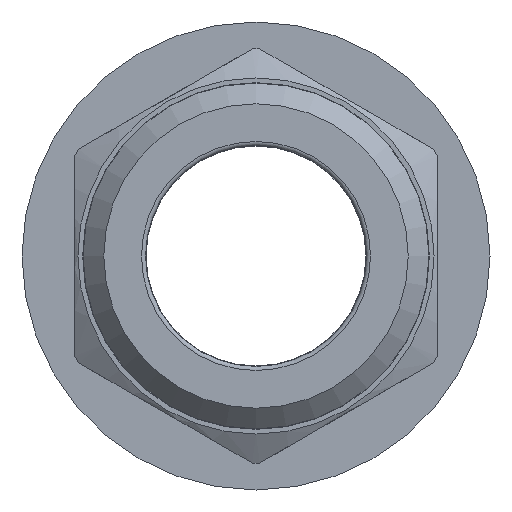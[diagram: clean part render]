
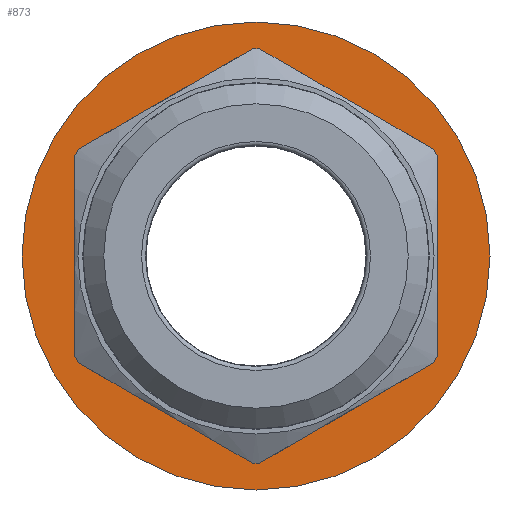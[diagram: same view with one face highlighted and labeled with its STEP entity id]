
A CAD part, front view. The second image highlights one B-rep face of the part: STEP entity #873.
In plain terms, the highlighted planar face has unit normal (0, -1, 0).
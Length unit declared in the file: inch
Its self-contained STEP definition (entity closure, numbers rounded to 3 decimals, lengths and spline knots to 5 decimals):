
#50=FACE_BOUND('',#173,.T.);
#63=PLANE('',#990);
#117=FACE_OUTER_BOUND('',#172,.T.);
#172=EDGE_LOOP('',(#691,#692));
#173=EDGE_LOOP('',(#693,#694));
#317=CIRCLE('',#991,0.565);
#318=CIRCLE('',#992,0.565);
#319=CIRCLE('',#993,0.3575);
#320=CIRCLE('',#994,0.3575);
#400=VERTEX_POINT('',#1490);
#401=VERTEX_POINT('',#1491);
#402=VERTEX_POINT('',#1494);
#403=VERTEX_POINT('',#1495);
#508=EDGE_CURVE('',#400,#401,#317,.T.);
#509=EDGE_CURVE('',#401,#400,#318,.T.);
#510=EDGE_CURVE('',#402,#403,#319,.T.);
#511=EDGE_CURVE('',#403,#402,#320,.T.);
#691=ORIENTED_EDGE('',*,*,#508,.T.);
#692=ORIENTED_EDGE('',*,*,#509,.T.);
#693=ORIENTED_EDGE('',*,*,#510,.F.);
#694=ORIENTED_EDGE('',*,*,#511,.F.);
#873=ADVANCED_FACE('',(#117,#50),#63,.T.);
#990=AXIS2_PLACEMENT_3D('',#1489,#1203,#1204);
#991=AXIS2_PLACEMENT_3D('',#1492,#1205,#1206);
#992=AXIS2_PLACEMENT_3D('',#1493,#1207,#1208);
#993=AXIS2_PLACEMENT_3D('',#1496,#1209,#1210);
#994=AXIS2_PLACEMENT_3D('',#1497,#1211,#1212);
#1203=DIRECTION('center_axis',(0.,-1.,0.));
#1204=DIRECTION('ref_axis',(0.,0.,-1.));
#1205=DIRECTION('center_axis',(0.,-1.,0.));
#1206=DIRECTION('ref_axis',(1.,0.,0.));
#1207=DIRECTION('center_axis',(0.,-1.,0.));
#1208=DIRECTION('ref_axis',(1.,0.,0.));
#1209=DIRECTION('center_axis',(0.,-1.,0.));
#1210=DIRECTION('ref_axis',(1.,0.,0.));
#1211=DIRECTION('center_axis',(0.,-1.,0.));
#1212=DIRECTION('ref_axis',(1.,0.,0.));
#1489=CARTESIAN_POINT('Origin',(0.,0.,-0.3575));
#1490=CARTESIAN_POINT('',(0.,0.,-0.565));
#1491=CARTESIAN_POINT('',(0.,0.,0.565));
#1492=CARTESIAN_POINT('Origin',(0.,0.,0.));
#1493=CARTESIAN_POINT('Origin',(0.,0.,0.));
#1494=CARTESIAN_POINT('',(0.,0.,-0.3575));
#1495=CARTESIAN_POINT('',(0.,0.,0.3575));
#1496=CARTESIAN_POINT('Origin',(0.,0.,0.));
#1497=CARTESIAN_POINT('Origin',(0.,0.,0.));
